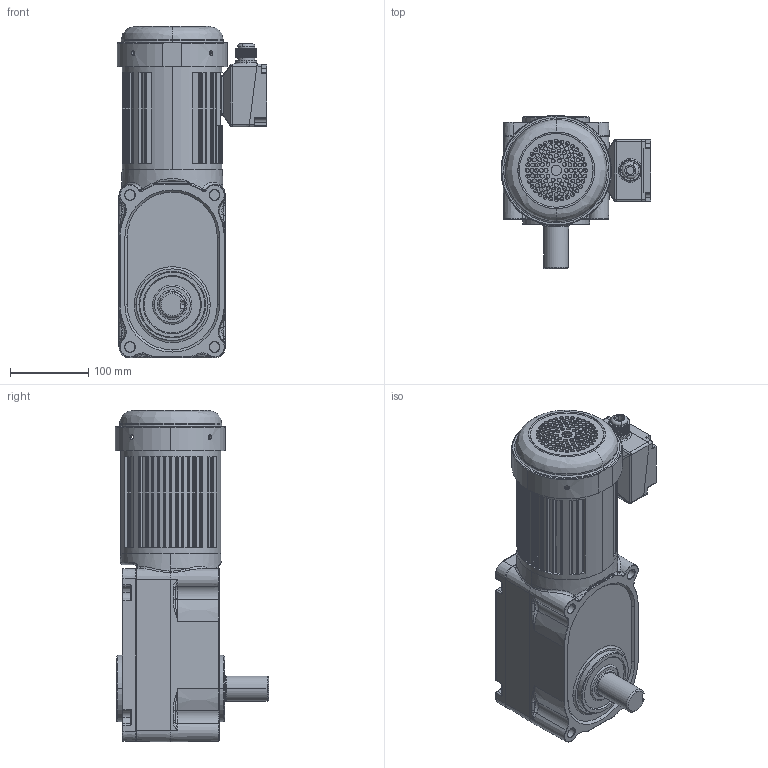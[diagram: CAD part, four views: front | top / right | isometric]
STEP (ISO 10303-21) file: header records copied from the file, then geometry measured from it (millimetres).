
FILE_DESCRIPTION (( 'STEP AP203' ), '1' );
FILE_NAME ('ZDF3-32A80K-240K-400-S3.STEP', '2020-05-05T06:47:58', ( '' ), ( '' ), 'SwSTEP 2.0', 'SolidWorks 2019', '' );
FILE_SCHEMA (( 'CONFIG_CONTROL_DESIGN' ));
Length unit declared in the file: millimetre
Products named in the file (3): ZDF3-32A80K-240K-400-S3(B); 嫖萇儂; ZDF3-32A80K-240K-400-S3
Assembly tree (2 placements, depth 2):
  ZDF3-32A80K-240K-400-S3
    ZDF3-32A80K-240K-400-S3(B)
    嫖萇儂
Bounding box: 191.48 x 195.5 x 423.7 mm (x, y, z)
Volume: 3856800.8 mm3; surface area: 491050.8 mm2
Topology: 1 solids, 12 shells, 1930 faces, 5168 edges, 3315 vertices
Faces by surface type: cylinder 1027, plane 499, cone 187, bspline 135, torus 64, sphere 18
Entity records: 73395 total; most frequent: CARTESIAN_POINT 25076, ORIENTED_EDGE 10232, DIRECTION 10015, EDGE_CURVE 5136, AXIS2_PLACEMENT_3D 4019, VERTEX_POINT 3315, EDGE_LOOP 2307, CIRCLE 2218
